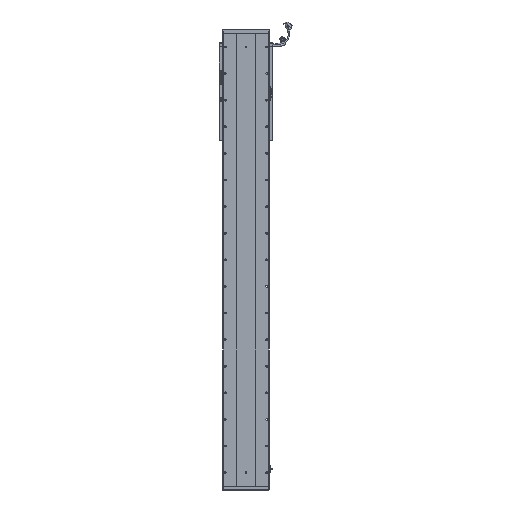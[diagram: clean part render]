
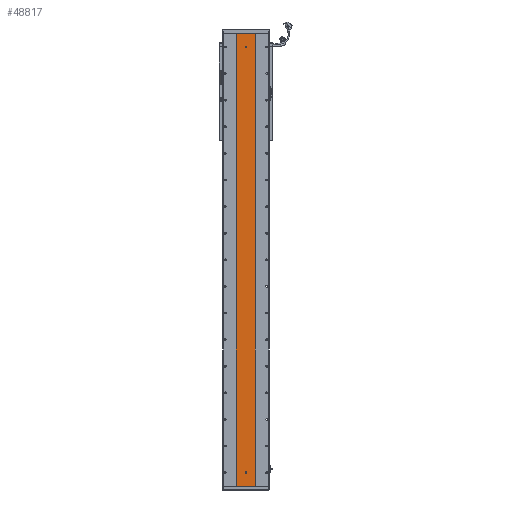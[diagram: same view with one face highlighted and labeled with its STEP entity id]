
A CAD part, front view. The second image highlights one B-rep face of the part: STEP entity #48817.
In plain terms, the highlighted planar face has unit normal (0, -1, 0).
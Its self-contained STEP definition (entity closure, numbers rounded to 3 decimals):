
#570 = CARTESIAN_POINT ( 'NONE',  ( 3316.311, 1415.701, 1702. ) ) ;
#2475 = DIRECTION ( 'NONE',  ( 0., 0., -1. ) ) ;
#2975 = LINE ( 'NONE', #41877, #8300 ) ;
#3065 = DIRECTION ( 'NONE',  ( 0., -1., 0. ) ) ;
#5407 = CARTESIAN_POINT ( 'NONE',  ( 3280.529, 1415.701, 52.5 ) ) ;
#6937 = CIRCLE ( 'NONE', #91648, 3. ) ;
#7967 = VECTOR ( 'NONE', #16387, 1000. ) ;
#8300 = VECTOR ( 'NONE', #40800, 1000. ) ;
#8803 = LINE ( 'NONE', #53421, #66879 ) ;
#9735 = CIRCLE ( 'NONE', #106018, 3. ) ;
#10651 = DIRECTION ( 'NONE',  ( 0., 0., -1. ) ) ;
#11531 = CARTESIAN_POINT ( 'NONE',  ( 3244.748, 1415.701, 1702. ) ) ;
#11893 = DIRECTION ( 'NONE',  ( 1., 0., 0. ) ) ;
#13376 = LINE ( 'NONE', #11531, #74107 ) ;
#13901 = DIRECTION ( 'NONE',  ( 0., 0., -1. ) ) ;
#15171 = CIRCLE ( 'NONE', #18832, 3. ) ;
#15665 = CARTESIAN_POINT ( 'NONE',  ( 3277.529, 1415.701, 52.5 ) ) ;
#16387 = DIRECTION ( 'NONE',  ( 0., 0., -1. ) ) ;
#18381 = VERTEX_POINT ( 'NONE', #70657 ) ;
#18595 = CIRCLE ( 'NONE', #29780, 3. ) ;
#18832 = AXIS2_PLACEMENT_3D ( 'NONE', #95977, #61734, #44033 ) ;
#20995 = EDGE_LOOP ( 'NONE', ( #74090, #90481, #21338, #98369, #77178 ) ) ;
#21022 = CARTESIAN_POINT ( 'NONE',  ( 3280.529, 1415.701, 49.5 ) ) ;
#21233 = EDGE_LOOP ( 'NONE', ( #62855, #70711, #66395, #85684 ) ) ;
#21338 = ORIENTED_EDGE ( 'NONE', *, *, #43483, .F. ) ;
#22100 = VERTEX_POINT ( 'NONE', #25064 ) ;
#22275 = EDGE_CURVE ( 'NONE', #86521, #22100, #9735, .T. ) ;
#24374 = FACE_BOUND ( 'NONE', #60879, .T. ) ;
#25027 = EDGE_CURVE ( 'NONE', #95743, #105578, #13376, .T. ) ;
#25064 = CARTESIAN_POINT ( 'NONE',  ( 3280.529, 1415.701, 1654. ) ) ;
#27451 = DIRECTION ( 'NONE',  ( 0., -1., 0. ) ) ;
#28018 = DIRECTION ( 'NONE',  ( 0., 0., -1. ) ) ;
#28265 = EDGE_CURVE ( 'NONE', #58847, #18381, #15171, .T. ) ;
#29457 = CARTESIAN_POINT ( 'NONE',  ( 3277.529, 1415.701, 49.5 ) ) ;
#29780 = AXIS2_PLACEMENT_3D ( 'NONE', #21022, #62680, #28018 ) ;
#33420 = CARTESIAN_POINT ( 'NONE',  ( 3244.748, 1415.701, 1702. ) ) ;
#33425 = EDGE_CURVE ( 'NONE', #95743, #74855, #8803, .T. ) ;
#34635 = EDGE_CURVE ( 'NONE', #35035, #75324, #50167, .T. ) ;
#35035 = VERTEX_POINT ( 'NONE', #63125 ) ;
#36358 = CARTESIAN_POINT ( 'NONE',  ( 3280.529, 1415.701, 46.5 ) ) ;
#37668 = CARTESIAN_POINT ( 'NONE',  ( 3280.529, 1415.701, 1651. ) ) ;
#38903 = EDGE_CURVE ( 'NONE', #22100, #86521, #51995, .T. ) ;
#39317 = VERTEX_POINT ( 'NONE', #69659 ) ;
#40800 = DIRECTION ( 'NONE',  ( 0., 0., 1. ) ) ;
#41877 = CARTESIAN_POINT ( 'NONE',  ( 3283.529, 1415.701, 52.5 ) ) ;
#41902 = DIRECTION ( 'NONE',  ( 0., 1., 0. ) ) ;
#43483 = EDGE_CURVE ( 'NONE', #39317, #35035, #6937, .T. ) ;
#43769 = CARTESIAN_POINT ( 'NONE',  ( 3316.311, 1415.701, 0. ) ) ;
#43922 = DIRECTION ( 'NONE',  ( 1., 0., 0. ) ) ;
#44033 = DIRECTION ( 'NONE',  ( 0., 0., -1. ) ) ;
#44109 = CARTESIAN_POINT ( 'NONE',  ( 3316.311, 1415.701, 1702. ) ) ;
#46496 = LINE ( 'NONE', #44109, #82128 ) ;
#48817 = ADVANCED_FACE ( 'NONE', ( #52153, #24374, #66637 ), #100541, .F. ) ;
#50167 = LINE ( 'NONE', #15665, #7967 ) ;
#51923 = CARTESIAN_POINT ( 'NONE',  ( 3244.748, 1415.701, 1702. ) ) ;
#51995 = CIRCLE ( 'NONE', #64898, 3. ) ;
#52153 = FACE_BOUND ( 'NONE', #20995, .T. ) ;
#53421 = CARTESIAN_POINT ( 'NONE',  ( 3244.748, 1415.701, 1702. ) ) ;
#53559 = EDGE_CURVE ( 'NONE', #18381, #39317, #2975, .T. ) ;
#54839 = VECTOR ( 'NONE', #43922, 1000. ) ;
#58120 = EDGE_CURVE ( 'NONE', #74855, #59846, #105175, .T. ) ;
#58847 = VERTEX_POINT ( 'NONE', #36358 ) ;
#59846 = VERTEX_POINT ( 'NONE', #43769 ) ;
#60879 = EDGE_LOOP ( 'NONE', ( #74276, #81979 ) ) ;
#61734 = DIRECTION ( 'NONE',  ( 0., -1., 0. ) ) ;
#62091 = DIRECTION ( 'NONE',  ( 0., 0., -1. ) ) ;
#62680 = DIRECTION ( 'NONE',  ( 0., -1., 0. ) ) ;
#62855 = ORIENTED_EDGE ( 'NONE', *, *, #58120, .T. ) ;
#63099 = AXIS2_PLACEMENT_3D ( 'NONE', #33420, #41902, #67359 ) ;
#63125 = CARTESIAN_POINT ( 'NONE',  ( 3277.529, 1415.701, 52.5 ) ) ;
#64898 = AXIS2_PLACEMENT_3D ( 'NONE', #37668, #3065, #62091 ) ;
#66395 = ORIENTED_EDGE ( 'NONE', *, *, #25027, .F. ) ;
#66637 = FACE_OUTER_BOUND ( 'NONE', #21233, .T. ) ;
#66879 = VECTOR ( 'NONE', #10651, 1000. ) ;
#67359 = DIRECTION ( 'NONE',  ( 0., 0., 1. ) ) ;
#69659 = CARTESIAN_POINT ( 'NONE',  ( 3283.529, 1415.701, 52.5 ) ) ;
#70657 = CARTESIAN_POINT ( 'NONE',  ( 3283.529, 1415.701, 49.5 ) ) ;
#70711 = ORIENTED_EDGE ( 'NONE', *, *, #86441, .F. ) ;
#74090 = ORIENTED_EDGE ( 'NONE', *, *, #102665, .F. ) ;
#74107 = VECTOR ( 'NONE', #11893, 1000. ) ;
#74276 = ORIENTED_EDGE ( 'NONE', *, *, #22275, .F. ) ;
#74855 = VERTEX_POINT ( 'NONE', #109368 ) ;
#75324 = VERTEX_POINT ( 'NONE', #29457 ) ;
#77178 = ORIENTED_EDGE ( 'NONE', *, *, #28265, .F. ) ;
#81979 = ORIENTED_EDGE ( 'NONE', *, *, #38903, .F. ) ;
#82128 = VECTOR ( 'NONE', #2475, 1000. ) ;
#85684 = ORIENTED_EDGE ( 'NONE', *, *, #33425, .T. ) ;
#85926 = CARTESIAN_POINT ( 'NONE',  ( 3244.748, 1415.701, 0. ) ) ;
#86441 = EDGE_CURVE ( 'NONE', #105578, #59846, #46496, .T. ) ;
#86521 = VERTEX_POINT ( 'NONE', #96054 ) ;
#90481 = ORIENTED_EDGE ( 'NONE', *, *, #34635, .F. ) ;
#91648 = AXIS2_PLACEMENT_3D ( 'NONE', #5407, #97195, #13901 ) ;
#94517 = CARTESIAN_POINT ( 'NONE',  ( 3280.529, 1415.701, 1651. ) ) ;
#95627 = DIRECTION ( 'NONE',  ( 0., 0., -1. ) ) ;
#95743 = VERTEX_POINT ( 'NONE', #51923 ) ;
#95977 = CARTESIAN_POINT ( 'NONE',  ( 3280.529, 1415.701, 49.5 ) ) ;
#96054 = CARTESIAN_POINT ( 'NONE',  ( 3280.529, 1415.701, 1648. ) ) ;
#97195 = DIRECTION ( 'NONE',  ( 0., -1., 0. ) ) ;
#98369 = ORIENTED_EDGE ( 'NONE', *, *, #53559, .F. ) ;
#100541 = PLANE ( 'NONE',  #63099 ) ;
#102665 = EDGE_CURVE ( 'NONE', #75324, #58847, #18595, .T. ) ;
#105175 = LINE ( 'NONE', #85926, #54839 ) ;
#105578 = VERTEX_POINT ( 'NONE', #570 ) ;
#106018 = AXIS2_PLACEMENT_3D ( 'NONE', #94517, #27451, #95627 ) ;
#109368 = CARTESIAN_POINT ( 'NONE',  ( 3244.748, 1415.701, 0. ) ) ;
